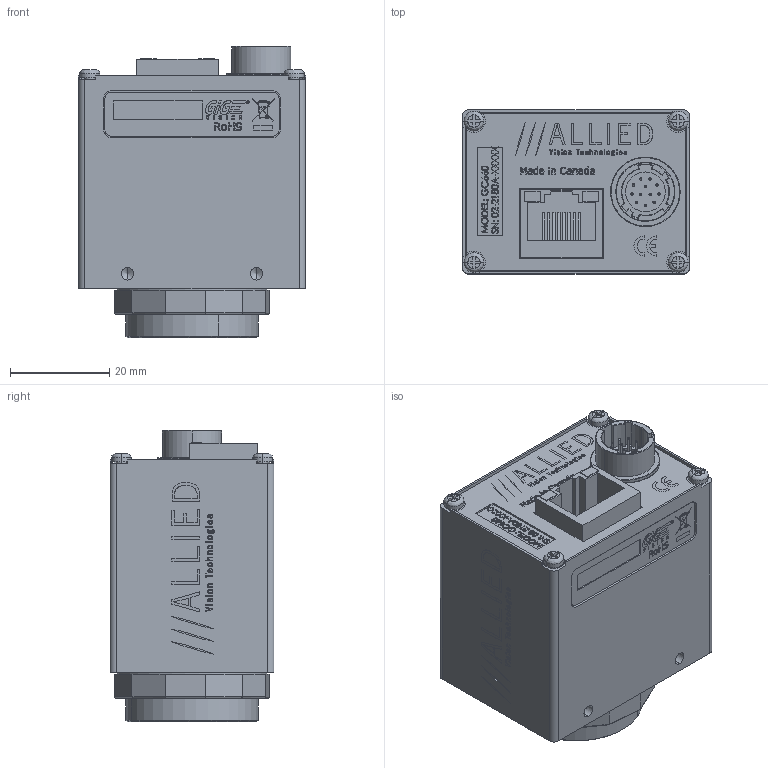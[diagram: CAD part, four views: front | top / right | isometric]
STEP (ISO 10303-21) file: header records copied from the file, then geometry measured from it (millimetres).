
FILE_DESCRIPTION (( 'STEP AP214' ), '1' );
FILE_NAME ('GC660.STEP', '2013-07-31T17:47:31', ( '' ), ( '' ), 'SwSTEP 2.0', 'SolidWorks 2013', '' );
FILE_SCHEMA (( 'AUTOMOTIVE_DESIGN' ));
Length unit declared in the file: millimetre
Products named in the file (20): 200047A-A GC INTERFACE PCB ASSY; 260033-AMPHENOL RJHS-3381; 140013-washer spring lock M2; 140023-SCREW SKT CAP M2x10 SS; 110042C GC-CCD FRONT_Finished with logo; 140017-SCREW PAN M2x4 SS; 740076A-GC660 LABEL PRINT; 260034-HIROSE HR10A-10R-12PB; 200071A-PCB ASSY GC660  SENSOR MONO; 220119-SONY ICX618ALA; SONY ICX618 WINDOW; SONY ICX618 BODY; 740123A-GC MAC LABEL; 110003AC-CV CMOUNT RING; GC660; 110043A GC BACK PLATE; 110043A GC BACK PLATE - WO HW; 740032B-GC MAIN LABEL; 110031A-B EC-CCD LOCKING RING; 110045B-EC-CCD DUST SHIELD GASKET
Assembly tree (24 placements, depth 4):
  GC660
    110003AC-CV CMOUNT RING
    740123A-GC MAC LABEL
    200071A-PCB ASSY GC660  SENSOR MONO
      220119-SONY ICX618ALA
        SONY ICX618 BODY
        SONY ICX618 WINDOW
    260034-HIROSE HR10A-10R-12PB
    740076A-GC660 LABEL PRINT
    140017-SCREW PAN M2x4 SS  x4
    110042C GC-CCD FRONT_Finished with logo
    140023-SCREW SKT CAP M2x10 SS  x2
    140013-washer spring lock M2  x2
    200047A-A GC INTERFACE PCB ASSY
      260033-AMPHENOL RJHS-3381
    110045B-EC-CCD DUST SHIELD GASKET
    740032B-GC MAIN LABEL
    110043A GC BACK PLATE
      110043A GC BACK PLATE - WO HW
    110031A-B EC-CCD LOCKING RING
Bounding box: 45.72 x 33.02 x 58.62 mm (x, y, z)
Volume: 21941.1 mm3; surface area: 31180.5 mm2
Topology: 20 solids, 20 shells, 3232 faces, 8484 edges, 5498 vertices
Faces by surface type: plane 1833, bspline 924, cylinder 283, cone 192
Entity records: 164467 total; most frequent: CARTESIAN_POINT 58270, ORIENTED_EDGE 16280, DIRECTION 11532, EDGE_CURVE 8140, VECTOR 5598, LINE 5598, VERTEX_POINT 5328, EDGE_LOOP 3456
